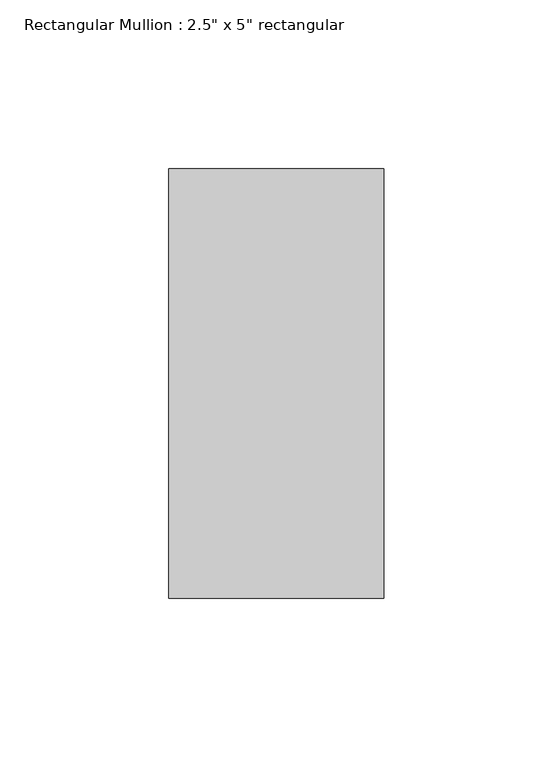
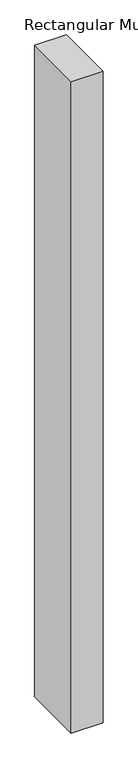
"""IFC4 building model written with IfcOpenShell, lengths in millimetres: member geometry."""

from ifc_helpers import new_model, si_unit, frame, origin, place, context, project, spatial, polyline, outline, extrude, source, transform, mapped, element, save


def member_4d5691c0(model_context):
    return source(origin(), model_context, "Body", "SweptSolid", [
        extrude(outline(polyline([(0.0, 50.8), (0.0, -76.2), (-63.5, -76.2), (-63.5, 50.8), (0.0, 50.8)])), frame((0.0, 0.0, -1380.3923077), z_axis=(0.0, 0.0, 1.0), x_axis=(1.0, 0.0, 0.0)), (0.0, 0.0, 1.0), 1380.3923077),
    ])


if __name__ == "__main__":
    model = new_model("IFC4")
    model_context = context("Model", 3, world=origin())
    ifc_project = project(units=[si_unit("LENGTHUNIT", "METRE", prefix="MILLI")], contexts=[model_context])
    site = spatial("IfcSite", under=ifc_project)
    building = spatial("IfcBuilding", under=site)
    placement = place(None, origin())
    member_shape = member_4d5691c0(model_context)
    element("IfcMember", 1, ObjectType="Rectangular Mullion : 2.5\" x 5\" rectangular", at=placement, inside=building, context=model_context, shape_type="MappedRepresentation", body=[
        mapped(member_shape, transform((0.0, 0.0, 0.0), x_axis=(1.0, 0.0, 0.0), y_axis=(0.0, 1.0, 0.0), z_axis=(0.0, 0.0, 1.0))),
    ])
    save(model, "model.ifc")
